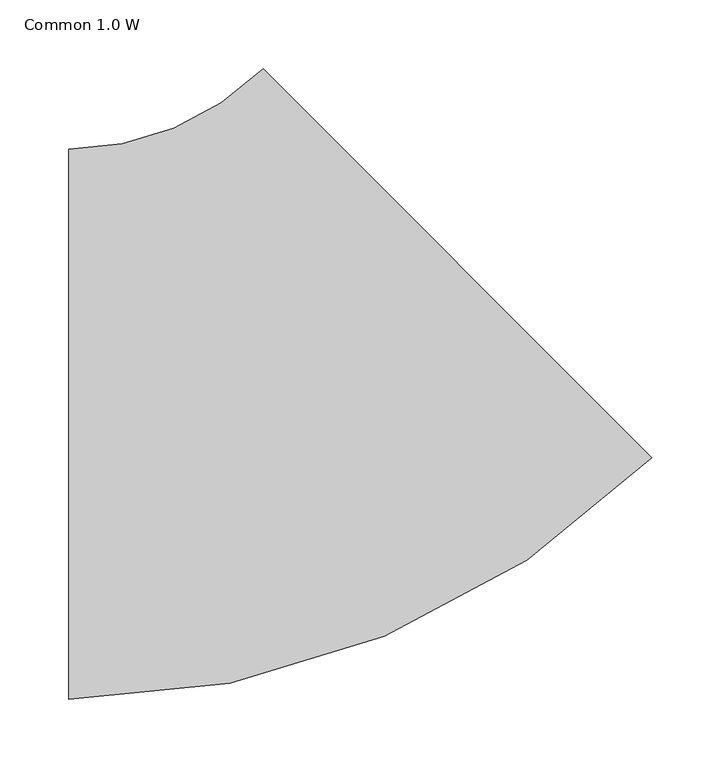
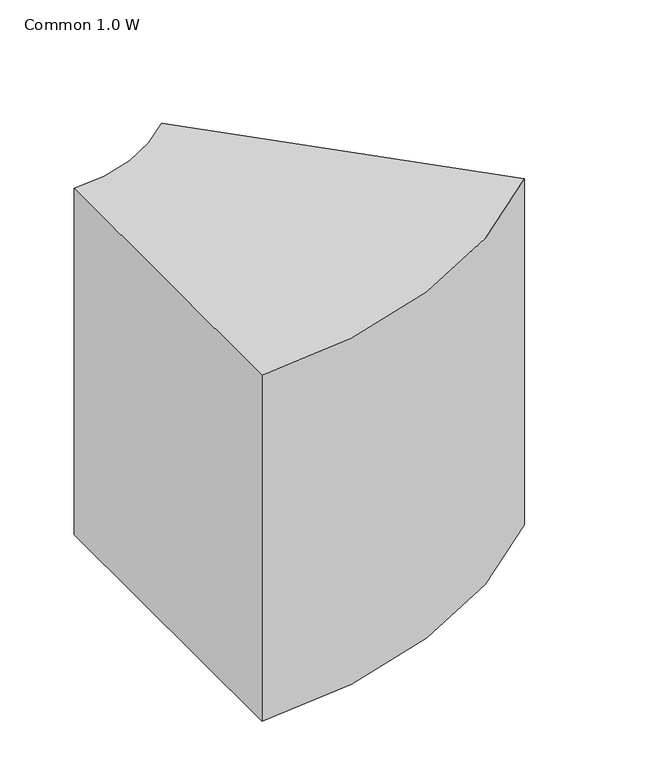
"""IFC4 building model written with IfcOpenShell, lengths in millimetres: duct fitting geometry, 011_角型エルボ - 半径 : Common 1.0 W."""

from ifc_helpers import new_model, si_unit, point, frame, frame_2d, origin, place, context, project, spatial, polyline, circle_curve, trimmed, segment, composite_curve, outline, extrude, source, transform, mapped, element, save


def common_1_0_w_d089da93(model_context):
    return source(origin(), model_context, "Body", "SweptSolid", [
        extrude(outline(composite_curve([segment(trimmed(circle_curve(frame_2d((-165.6854249, 400.0)), 600.0), [point((258.5786438, -24.2640687))], [point((-165.6854249, -200.0))], False, "CARTESIAN"), True, "CONTINUOUS"), segment(polyline([(-165.6854249, -200.0), (-165.6854249, 200.0)]), True, "CONTINUOUS"), segment(trimmed(circle_curve(frame_2d((-165.6854249, 400.0)), 200.0), [point((-165.6854249, 200.0))], [point((-24.2640687, 258.5786438))], True, "CARTESIAN"), True, "CONTINUOUS"), segment(polyline([(-24.2640687, 258.5786438), (258.5786438, -24.2640687)]), True, "CONTINUOUS")], self_intersect=False)), frame((0.0, 0.0, -225.0), z_axis=(0.0, 0.0, 1.0), x_axis=(1.0, 0.0, 0.0)), (0.0, 0.0, 1.0), 450.0),
    ])


if __name__ == "__main__":
    model = new_model("IFC4")
    model_context = context("Model", 3, world=origin())
    ifc_project = project(units=[si_unit("LENGTHUNIT", "METRE", prefix="MILLI")], contexts=[model_context])
    site = spatial("IfcSite", under=ifc_project)
    building = spatial("IfcBuilding", under=site)
    placement = place(None, origin())
    common_1_0_w_shape = common_1_0_w_d089da93(model_context)
    element("IfcDuctFitting", 1, ObjectType="011_角型エルボ - 半径 : Common 1.0 W", at=placement, inside=building, context=model_context, shape_type="MappedRepresentation", body=[
        mapped(common_1_0_w_shape, transform((0.0, 0.0, 0.0), x_axis=(1.0, 0.0, 0.0), y_axis=(0.0, 1.0, 0.0), z_axis=(0.0, 0.0, 1.0))),
    ])
    save(model, "model.ifc")
